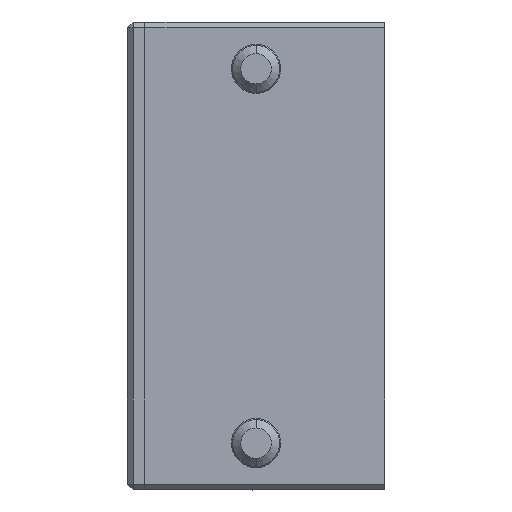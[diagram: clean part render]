
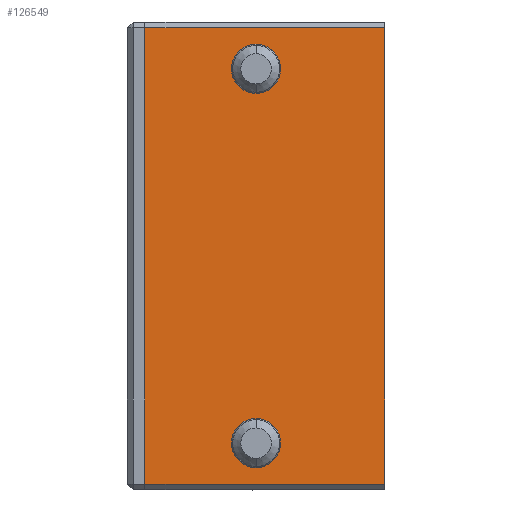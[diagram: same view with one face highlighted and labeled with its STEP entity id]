
A CAD part, left-side view. The second image highlights one B-rep face of the part: STEP entity #126549.
In plain terms, the highlighted planar face has unit normal (-1, 0, 0).
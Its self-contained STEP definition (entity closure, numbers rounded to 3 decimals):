
#1838 = VERTEX_POINT ( 'NONE', #55519 ) ;
#2285 = EDGE_LOOP ( 'NONE', ( #139574, #30494 ) ) ;
#7037 = EDGE_CURVE ( 'NONE', #44633, #116119, #131112, .T. ) ;
#12616 = EDGE_LOOP ( 'NONE', ( #107504, #135317 ) ) ;
#14116 = FACE_BOUND ( 'NONE', #12616, .T. ) ;
#16482 = DIRECTION ( 'NONE',  ( 0., 0., 1. ) ) ;
#17112 = PLANE ( 'NONE',  #150562 ) ;
#18358 = EDGE_CURVE ( 'NONE', #42510, #97995, #32335, .T. ) ;
#20763 = CARTESIAN_POINT ( 'NONE',  ( -22.5, 11., 16. ) ) ;
#23959 = VERTEX_POINT ( 'NONE', #81662 ) ;
#24010 = CARTESIAN_POINT ( 'NONE',  ( -22.5, 20.5, 20. ) ) ;
#24632 = VERTEX_POINT ( 'NONE', #142359 ) ;
#27195 = DIRECTION ( 'NONE',  ( -1., 0., 0. ) ) ;
#30494 = ORIENTED_EDGE ( 'NONE', *, *, #18358, .F. ) ;
#30731 = DIRECTION ( 'NONE',  ( 0., 0., 1. ) ) ;
#32335 = CIRCLE ( 'NONE', #146920, 2.1 ) ;
#34906 = CIRCLE ( 'NONE', #47129, 2.1 ) ;
#37763 = DIRECTION ( 'NONE',  ( -1., 0., 0. ) ) ;
#40179 = ORIENTED_EDGE ( 'NONE', *, *, #88226, .F. ) ;
#42081 = DIRECTION ( 'NONE',  ( 0., 0., 1. ) ) ;
#42510 = VERTEX_POINT ( 'NONE', #72427 ) ;
#43122 = CARTESIAN_POINT ( 'NONE',  ( -22.5, 11., 18.1 ) ) ;
#44633 = VERTEX_POINT ( 'NONE', #74115 ) ;
#45979 = AXIS2_PLACEMENT_3D ( 'NONE', #107291, #37763, #48499 ) ;
#47129 = AXIS2_PLACEMENT_3D ( 'NONE', #53872, #27195, #16482 ) ;
#47734 = ORIENTED_EDGE ( 'NONE', *, *, #68685, .T. ) ;
#47903 = CARTESIAN_POINT ( 'NONE',  ( -22.5, 20.5, 19.5 ) ) ;
#48499 = DIRECTION ( 'NONE',  ( 0., 0., 1. ) ) ;
#49468 = ORIENTED_EDGE ( 'NONE', *, *, #7037, .T. ) ;
#52493 = DIRECTION ( 'NONE',  ( 0., -1., 0. ) ) ;
#52704 = VERTEX_POINT ( 'NONE', #95018 ) ;
#52920 = CARTESIAN_POINT ( 'NONE',  ( -22.5, 0., 20. ) ) ;
#53872 = CARTESIAN_POINT ( 'NONE',  ( -22.5, 11., -16. ) ) ;
#55519 = CARTESIAN_POINT ( 'NONE',  ( -22.5, 20.5, -19.5 ) ) ;
#63189 = LINE ( 'NONE', #144159, #98829 ) ;
#68685 = EDGE_CURVE ( 'NONE', #23959, #44633, #112433, .T. ) ;
#72427 = CARTESIAN_POINT ( 'NONE',  ( -22.5, 11., 13.9 ) ) ;
#73981 = EDGE_CURVE ( 'NONE', #1838, #23959, #63189, .T. ) ;
#74115 = CARTESIAN_POINT ( 'NONE',  ( -22.5, 0., 19.5 ) ) ;
#75162 = FACE_OUTER_BOUND ( 'NONE', #75957, .T. ) ;
#75907 = DIRECTION ( 'NONE',  ( 1., 0., 0. ) ) ;
#75957 = EDGE_LOOP ( 'NONE', ( #40179, #149615, #47734, #49468 ) ) ;
#78700 = DIRECTION ( 'NONE',  ( -1., 0., 0. ) ) ;
#81662 = CARTESIAN_POINT ( 'NONE',  ( -22.5, 0., -19.5 ) ) ;
#88226 = EDGE_CURVE ( 'NONE', #1838, #116119, #128649, .T. ) ;
#90580 = VECTOR ( 'NONE', #130910, 1000. ) ;
#90587 = EDGE_CURVE ( 'NONE', #97995, #42510, #129957, .T. ) ;
#95018 = CARTESIAN_POINT ( 'NONE',  ( -22.5, 11., -18.1 ) ) ;
#97995 = VERTEX_POINT ( 'NONE', #43122 ) ;
#98829 = VECTOR ( 'NONE', #52493, 1000. ) ;
#100313 = CARTESIAN_POINT ( 'NONE',  ( -22.5, 20.5, 20. ) ) ;
#101097 = EDGE_CURVE ( 'NONE', #52704, #24632, #34906, .T. ) ;
#104750 = DIRECTION ( 'NONE',  ( 0., 0., 1. ) ) ;
#107291 = CARTESIAN_POINT ( 'NONE',  ( -22.5, 11., -16. ) ) ;
#107504 = ORIENTED_EDGE ( 'NONE', *, *, #137354, .F. ) ;
#111081 = CARTESIAN_POINT ( 'NONE',  ( -22.5, 20.5, 19.5 ) ) ;
#112433 = LINE ( 'NONE', #52920, #115717 ) ;
#115306 = AXIS2_PLACEMENT_3D ( 'NONE', #145216, #78700, #42081 ) ;
#115717 = VECTOR ( 'NONE', #30731, 1000. ) ;
#116119 = VERTEX_POINT ( 'NONE', #111081 ) ;
#123227 = FACE_BOUND ( 'NONE', #2285, .T. ) ;
#126549 = ADVANCED_FACE ( 'NONE', ( #14116, #123227, #75162 ), #17112, .F. ) ;
#128649 = LINE ( 'NONE', #24010, #90580 ) ;
#129957 = CIRCLE ( 'NONE', #115306, 2.1 ) ;
#130356 = DIRECTION ( 'NONE',  ( 0., 1., 0. ) ) ;
#130910 = DIRECTION ( 'NONE',  ( 0., 0., 1. ) ) ;
#131112 = LINE ( 'NONE', #47903, #150730 ) ;
#135317 = ORIENTED_EDGE ( 'NONE', *, *, #101097, .F. ) ;
#137354 = EDGE_CURVE ( 'NONE', #24632, #52704, #148454, .T. ) ;
#139574 = ORIENTED_EDGE ( 'NONE', *, *, #90587, .F. ) ;
#142359 = CARTESIAN_POINT ( 'NONE',  ( -22.5, 11., -13.9 ) ) ;
#144159 = CARTESIAN_POINT ( 'NONE',  ( -22.5, 20.5, -19.5 ) ) ;
#145216 = CARTESIAN_POINT ( 'NONE',  ( -22.5, 11., 16. ) ) ;
#146180 = DIRECTION ( 'NONE',  ( 0., 0., -1. ) ) ;
#146920 = AXIS2_PLACEMENT_3D ( 'NONE', #20763, #150605, #104750 ) ;
#148454 = CIRCLE ( 'NONE', #45979, 2.1 ) ;
#149615 = ORIENTED_EDGE ( 'NONE', *, *, #73981, .T. ) ;
#150562 = AXIS2_PLACEMENT_3D ( 'NONE', #100313, #75907, #146180 ) ;
#150605 = DIRECTION ( 'NONE',  ( -1., 0., 0. ) ) ;
#150730 = VECTOR ( 'NONE', #130356, 1000. ) ;
